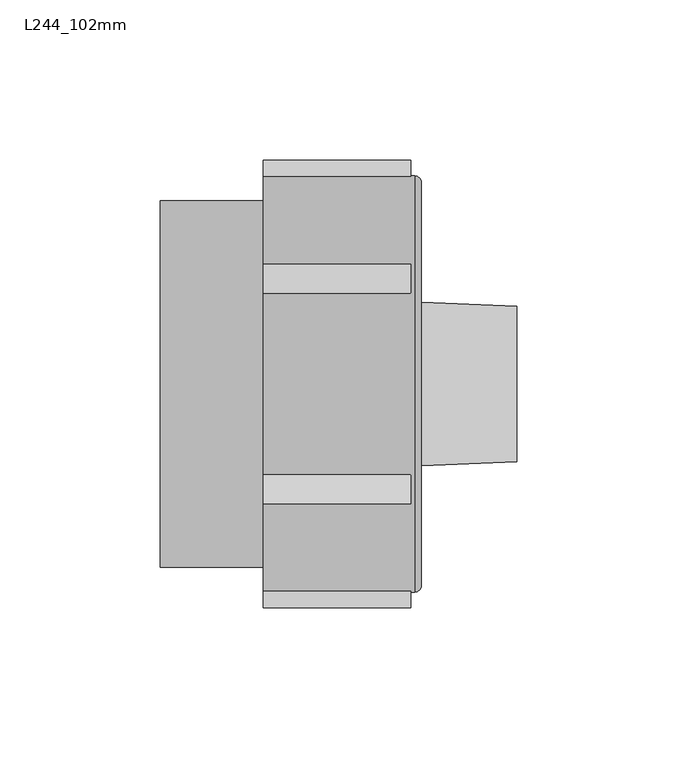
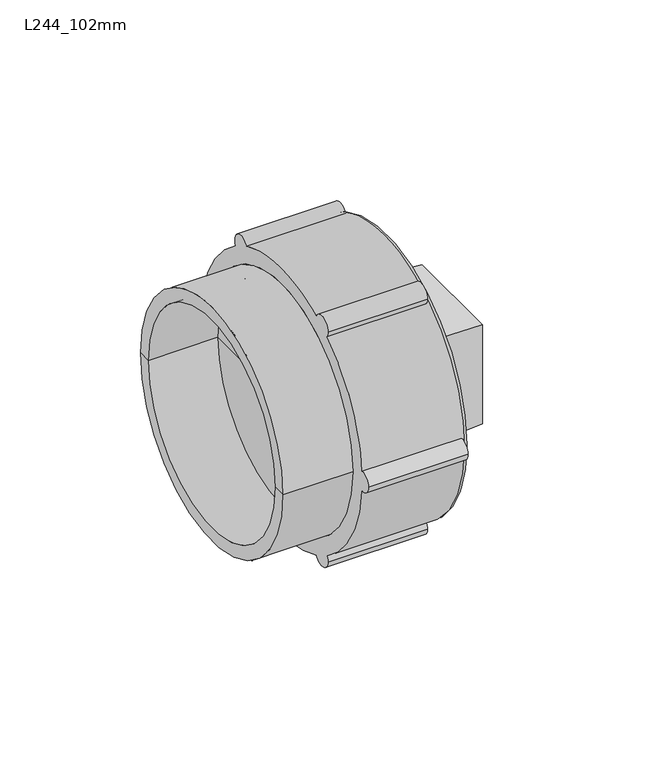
"""IFC4 building model written with IfcOpenShell, lengths in millimetres: pipe fitting geometry, Durapipe_PipeFitting_VulcatheneEnfusion_CleanoutPlug_L24 : L244_102mm."""

from ifc_helpers import new_model, si_unit, point, frame, origin, place, context, project, spatial, polyline, circle_curve, ellipse_curve, trimmed, source, transform, mapped, element, save
from ifc_brep_helpers import plane_surface, cylinder_surface, revolved_surface, advanced_brep


def l244_102mm_bb0a7bc2(model_context):
    return source(origin(), model_context, "Body", "AdvancedBrep", [
        advanced_brep(
        [(23.8, 64.9, 0.0), (23.8, -64.9, 0.0), (22.6, -64.9, 0.0), (22.6, -64.7150231, -4.8965073), (-23.4, -64.7150231, -4.8965073), (-23.4, -36.5980113, -53.5966004), (22.6, -36.5980113, -53.5966004), (22.6, -28.1170119, -58.4931077), (-23.4, -28.1170119, -58.4931077), (-23.4, 28.1170119, -58.4931077), (22.6, 28.1170119, -58.4931077), (22.6, 36.5980113, -53.5966004), (-23.4, 36.5980113, -53.5966004), (-23.4, 64.7150231, -4.8965073), (22.6, 64.7150231, -4.8965073), (22.6, 64.9, 0.0), (22.6, 64.7150231, 4.8965073), (-23.4, 64.7150231, 4.8965073), (-23.4, 36.5980113, 53.5966004), (22.6, 36.5980113, 53.5966004), (22.6, 28.1170119, 58.4931077), (-23.4, 28.1170119, 58.4931077), (-23.4, -28.1170119, 58.4931077), (22.6, -28.1170119, 58.4931077), (22.6, -36.5980113, 53.5966004), (-23.4, -36.5980113, 53.5966004), (-23.4, -64.7150231, 4.8965073), (22.6, -64.7150231, 4.8965073), (-23.4, 69.8, 0.0), (-23.4, 37.35, -56.2050487), (-23.4, -37.35, -56.2050487), (-23.4, -69.8, 0.0), (-23.4, -37.35, 56.2050487), (-23.4, 37.35, 56.2050487), (-23.4, -57.2, 0.0), (-23.4, 57.2, 0.0), (-55.6, -57.2, 0.0), (-55.6, 57.2, 0.0), (-55.6, -51.0, 0.0), (-55.6, 51.0, 0.0), (-23.4, -51.0, 0.0), (-23.4, 51.0, 0.0), (-23.4, 0.0, 0.0), (25.8, -62.9, 0.0), (25.8, 62.9, 0.0), (25.8, 25.5, 0.0), (25.8, 25.5, -25.5), (25.8, -25.5, -25.5), (25.8, -25.5, 0.0), (25.8, -25.5, 25.5), (25.8, 25.5, 25.5), (22.6, -37.35, 56.2050487), (22.6, 37.35, 56.2050487), (22.6, 69.8, 0.0), (22.6, -69.8, 0.0), (22.6, -37.35, -56.2050487), (22.6, 37.35, -56.2050487), (55.6, -24.1989039, 24.1989039), (55.6, -24.1989039, -24.1989039), (55.6, 24.1989039, -24.1989039), (55.6, 24.1989039, 24.1989039)],
        [
            (0, 1, circle_curve(frame((23.8, 0.0, 0.0), z_axis=(-1.0, 0.0, 0.0), x_axis=(0.0, 1.0, 0.0)), 64.9)),
            (1, 2),
            (2, 3, circle_curve(frame((22.6, 0.0, 0.0), z_axis=(1.0, 0.0, 0.0), x_axis=(0.0, 1.0, 0.0)), 64.9)),
            (3, 4),
            (4, 5, circle_curve(frame((-23.4, 0.0, 0.0), z_axis=(1.0, 0.0, 0.0), x_axis=(0.0, 1.0, 0.0)), 64.9)),
            (5, 6),
            (6, 7, circle_curve(frame((22.6, 0.0, 0.0), z_axis=(1.0, 0.0, 0.0), x_axis=(0.0, 1.0, 0.0)), 64.9)),
            (7, 8),
            (8, 9, circle_curve(frame((-23.4, 0.0, 0.0), z_axis=(1.0, 0.0, 0.0), x_axis=(0.0, 1.0, 0.0)), 64.9)),
            (9, 10),
            (10, 11, circle_curve(frame((22.6, 0.0, 0.0), z_axis=(1.0, 0.0, 0.0), x_axis=(0.0, 1.0, 0.0)), 64.9)),
            (11, 12),
            (12, 13, circle_curve(frame((-23.4, 0.0, 0.0), z_axis=(1.0, 0.0, 0.0), x_axis=(0.0, 1.0, 0.0)), 64.9)),
            (13, 14),
            (14, 15, circle_curve(frame((22.6, 0.0, 0.0), z_axis=(1.0, 0.0, 0.0), x_axis=(0.0, 1.0, 0.0)), 64.9)),
            (15, 0),
            (1, 0, circle_curve(frame((23.8, 0.0, 0.0), z_axis=(-1.0, 0.0, 0.0), x_axis=(0.0, 1.0, 0.0)), 64.9)),
            (15, 16, circle_curve(frame((22.6, 0.0, 0.0), z_axis=(1.0, 0.0, 0.0), x_axis=(0.0, 1.0, 0.0)), 64.9)),
            (16, 17),
            (17, 18, circle_curve(frame((-23.4, 0.0, 0.0), z_axis=(1.0, 0.0, 0.0), x_axis=(0.0, 1.0, 0.0)), 64.9)),
            (18, 19),
            (19, 20, circle_curve(frame((22.6, 0.0, 0.0), z_axis=(1.0, 0.0, 0.0), x_axis=(0.0, 1.0, 0.0)), 64.9)),
            (20, 21),
            (21, 22, circle_curve(frame((-23.4, 0.0, 0.0), z_axis=(1.0, 0.0, 0.0), x_axis=(0.0, 1.0, 0.0)), 64.9)),
            (22, 23),
            (23, 24, circle_curve(frame((22.6, 0.0, 0.0), z_axis=(1.0, 0.0, 0.0), x_axis=(0.0, 1.0, 0.0)), 64.9)),
            (24, 25),
            (25, 26, circle_curve(frame((-23.4, 0.0, 0.0), z_axis=(1.0, 0.0, 0.0), x_axis=(0.0, 1.0, 0.0)), 64.9)),
            (26, 27),
            (27, 2, circle_curve(frame((22.6, 0.0, 0.0), z_axis=(1.0, 0.0, 0.0), x_axis=(0.0, 1.0, 0.0)), 64.9)),
            (28, 13, circle_curve(frame((-23.4, 64.9, 0.0), z_axis=(-1.0, 0.0, 0.0), x_axis=(0.0, 1.0, 0.0)), 4.9)),
            (12, 29, circle_curve(frame((-23.4, 32.45, -56.2050487), z_axis=(-1.0, 0.0, 0.0), x_axis=(0.0, 1.0, 0.0)), 4.9)),
            (29, 9, circle_curve(frame((-23.4, 32.45, -56.2050487), z_axis=(-1.0, 0.0, 0.0), x_axis=(0.0, 1.0, 0.0)), 4.9)),
            (8, 30, circle_curve(frame((-23.4, -32.45, -56.2050487), z_axis=(-1.0, 0.0, 0.0), x_axis=(0.0, 1.0, 0.0)), 4.9)),
            (30, 5, circle_curve(frame((-23.4, -32.45, -56.2050487), z_axis=(-1.0, 0.0, 0.0), x_axis=(0.0, 1.0, 0.0)), 4.9)),
            (4, 31, circle_curve(frame((-23.4, -64.9, 0.0), z_axis=(-1.0, 0.0, 0.0), x_axis=(0.0, 1.0, 0.0)), 4.9)),
            (31, 26, circle_curve(frame((-23.4, -64.9, 0.0), z_axis=(-1.0, 0.0, 0.0), x_axis=(0.0, 1.0, 0.0)), 4.9)),
            (25, 32, circle_curve(frame((-23.4, -32.45, 56.2050487), z_axis=(-1.0, 0.0, 0.0), x_axis=(0.0, 1.0, 0.0)), 4.9)),
            (32, 22, circle_curve(frame((-23.4, -32.45, 56.2050487), z_axis=(-1.0, 0.0, 0.0), x_axis=(0.0, 1.0, 0.0)), 4.9)),
            (21, 33, circle_curve(frame((-23.4, 32.45, 56.2050487), z_axis=(-1.0, 0.0, 0.0), x_axis=(0.0, 1.0, 0.0)), 4.9)),
            (33, 18, circle_curve(frame((-23.4, 32.45, 56.2050487), z_axis=(-1.0, 0.0, 0.0), x_axis=(0.0, 1.0, 0.0)), 4.9)),
            (17, 28, circle_curve(frame((-23.4, 64.9, 0.0), z_axis=(-1.0, 0.0, 0.0), x_axis=(0.0, 1.0, 0.0)), 4.9)),
            (34, 35, circle_curve(frame((-23.4, 0.0, 0.0), z_axis=(1.0, 0.0, 0.0), x_axis=(0.0, 1.0, 0.0)), 57.2)),
            (35, 34, circle_curve(frame((-23.4, 0.0, 0.0), z_axis=(1.0, 0.0, 0.0), x_axis=(0.0, 1.0, 0.0)), 57.2)),
            (34, 36),
            (36, 37, circle_curve(frame((-55.6, 0.0, 0.0), z_axis=(1.0, 0.0, 0.0), x_axis=(0.0, 1.0, 0.0)), 57.2)),
            (37, 35),
            (37, 36, circle_curve(frame((-55.6, 0.0, 0.0), z_axis=(1.0, 0.0, 0.0), x_axis=(0.0, 1.0, 0.0)), 57.2)),
            (36, 38),
            (38, 39, circle_curve(frame((-55.6, 0.0, 0.0), z_axis=(1.0, 0.0, 0.0), x_axis=(0.0, 1.0, 0.0)), 51.0)),
            (39, 37),
            (39, 38, circle_curve(frame((-55.6, 0.0, 0.0), z_axis=(1.0, 0.0, 0.0), x_axis=(0.0, 1.0, 0.0)), 51.0)),
            (38, 40),
            (40, 41, circle_curve(frame((-23.4, 0.0, 0.0), z_axis=(1.0, 0.0, 0.0), x_axis=(0.0, 1.0, 0.0)), 51.0)),
            (41, 39),
            (41, 40, circle_curve(frame((-23.4, 0.0, 0.0), z_axis=(1.0, 0.0, 0.0), x_axis=(0.0, 1.0, 0.0)), 51.0)),
            (40, 42),
            (42, 41),
            (43, 44, circle_curve(frame((25.8, 0.0, 0.0), z_axis=(1.0, 0.0, 0.0), x_axis=(0.0, 1.0, 0.0)), 62.9)),
            (44, 45),
            (45, 46),
            (46, 47),
            (47, 48),
            (48, 43),
            (44, 43, circle_curve(frame((25.8, 0.0, 0.0), z_axis=(1.0, 0.0, 0.0), x_axis=(0.0, -1.0, 0.0)), 62.9)),
            (48, 49),
            (49, 50),
            (50, 45),
            (43, 1, circle_curve(frame((23.8, -62.9, 0.0), z_axis=(0.0, 0.0, -1.0), x_axis=(0.0, -1.0, 0.0)), 2.0)),
            (0, 44, circle_curve(frame((23.8, 62.9, 0.0), z_axis=(0.0, 0.0, -1.0), x_axis=(0.0, 1.0, 0.0)), 2.0)),
            (51, 24, circle_curve(frame((22.6, -32.45, 56.2050487), z_axis=(1.0, 0.0, 0.0), x_axis=(0.0, 1.0, 0.0)), 4.9)),
            (23, 51, circle_curve(frame((22.6, -32.45, 56.2050487), z_axis=(1.0, 0.0, 0.0), x_axis=(0.0, 1.0, 0.0)), 4.9)),
            (19, 52, circle_curve(frame((22.6, 32.45, 56.2050487), z_axis=(1.0, 0.0, 0.0), x_axis=(0.0, 1.0, 0.0)), 4.9)),
            (52, 20, circle_curve(frame((22.6, 32.45, 56.2050487), z_axis=(1.0, 0.0, 0.0), x_axis=(0.0, 1.0, 0.0)), 4.9)),
            (14, 53, circle_curve(frame((22.6, 64.9, 0.0), z_axis=(1.0, 0.0, 0.0), x_axis=(0.0, 1.0, 0.0)), 4.9)),
            (53, 16, circle_curve(frame((22.6, 64.9, 0.0), z_axis=(1.0, 0.0, 0.0), x_axis=(0.0, 1.0, 0.0)), 4.9)),
            (54, 3, circle_curve(frame((22.6, -64.9, 0.0), z_axis=(1.0, 0.0, 0.0), x_axis=(0.0, 1.0, 0.0)), 4.9)),
            (27, 54, circle_curve(frame((22.6, -64.9, 0.0), z_axis=(1.0, 0.0, 0.0), x_axis=(0.0, 1.0, 0.0)), 4.9)),
            (55, 7, circle_curve(frame((22.6, -32.45, -56.2050487), z_axis=(1.0, 0.0, 0.0), x_axis=(0.0, 1.0, 0.0)), 4.9)),
            (6, 55, circle_curve(frame((22.6, -32.45, -56.2050487), z_axis=(1.0, 0.0, 0.0), x_axis=(0.0, 1.0, 0.0)), 4.9)),
            (10, 56, circle_curve(frame((22.6, 32.45, -56.2050487), z_axis=(1.0, 0.0, 0.0), x_axis=(0.0, 1.0, 0.0)), 4.9)),
            (56, 11, circle_curve(frame((22.6, 32.45, -56.2050487), z_axis=(1.0, 0.0, 0.0), x_axis=(0.0, 1.0, 0.0)), 4.9)),
            (51, 32),
            (33, 52),
            (28, 53),
            (54, 31),
            (55, 30),
            (29, 56),
            (57, 58),
            (58, 59),
            (59, 60),
            (60, 57),
            (47, 58),
            (57, 49),
            (46, 59),
            (50, 60),
        ],
        [
            cylinder_surface(frame((1580.9518184, 0.0, 0.0), z_axis=(-1.0, 0.0, 0.0), x_axis=(0.0, 1.0, 0.0)), 64.9),
            plane_surface(frame((-23.4, 0.0, 0.0), z_axis=(-1.0, 0.0, 0.0), x_axis=(0.0, 1.0, 0.0))),
            cylinder_surface(frame((1580.9518184, 0.0, 0.0), z_axis=(-1.0, 0.0, 0.0), x_axis=(0.0, 1.0, 0.0)), 57.2),
            plane_surface(frame((-55.6, 0.0, 0.0), z_axis=(-1.0, 0.0, 0.0), x_axis=(0.0, 1.0, 0.0))),
            revolved_surface(polyline([(-55.59999999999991, 51.0, 0.0), (-23.40000000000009, 51.0, 0.0)]), (1580.9518184, 0.0, 0.0), (-1.0, 0.0, 0.0)),
            plane_surface(frame((25.8, 0.0, 0.0), z_axis=(1.0, 0.0, 0.0), x_axis=(0.0, 1.0, 0.0))),
            revolved_surface(trimmed(ellipse_curve(frame((23.8, 62.9, 0.0), z_axis=(0.0, 0.0, 1.0), x_axis=(0.0, 1.0, 0.0)), 2.0, 2.0), [point((25.8, 62.9, 0.0))], [point((23.8, 64.9, 0.0))], True, "CARTESIAN"), (25.8, 0.0, 0.0), (-1.0, 0.0, 0.0)),
            revolved_surface(trimmed(ellipse_curve(frame((23.8, -62.9, 0.0), z_axis=(0.0, 0.0, -1.0), x_axis=(0.0, -1.0, 0.0)), 2.0, 2.0), [point((25.8, -62.9, 0.0))], [point((23.8, -64.9, 0.0))], True, "CARTESIAN"), (25.8, 0.0, 0.0), (-1.0, 0.0, 0.0)),
            plane_surface(frame((22.6, -27.55, 56.2050487), z_axis=(1.0, 0.0, 0.0), x_axis=(0.0, 0.0, 1.0))),
            cylinder_surface(frame((-23.4, -32.45, 56.2050487), z_axis=(1.0, 0.0, 0.0), x_axis=(0.0, 1.0, 0.0)), 4.9),
            cylinder_surface(frame((0.0, 32.45, 56.2050487), z_axis=(1.0, 0.0, 0.0), x_axis=(0.0, 1.0, 0.0)), 4.9),
            cylinder_surface(frame((0.0, 64.9, 0.0), z_axis=(1.0, 0.0, 0.0), x_axis=(0.0, 1.0, 0.0)), 4.9),
            cylinder_surface(frame((0.0, -64.9, 0.0), z_axis=(1.0, 0.0, 0.0), x_axis=(0.0, 1.0, 0.0)), 4.9),
            cylinder_surface(frame((0.0, -32.45, -56.2050487), z_axis=(1.0, 0.0, 0.0), x_axis=(0.0, 1.0, 0.0)), 4.9),
            cylinder_surface(frame((0.0, 32.45, -56.2050487), z_axis=(1.0, 0.0, 0.0), x_axis=(0.0, 1.0, 0.0)), 4.9),
            plane_surface(frame((55.6, -25.5, 25.5), z_axis=(1.0, 0.0, 0.0), x_axis=(0.0, -1.0, 0.0))),
            plane_surface(frame((55.6, -24.1989039, 24.1989039), z_axis=(0.04361938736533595, -0.9990482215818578, 0.0), x_axis=(0.0, 0.0, -1.0))),
            plane_surface(frame((55.6, -24.1989039, -24.1989039), z_axis=(0.04361938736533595, 0.0, -0.9990482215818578), x_axis=(0.0, 1.0, 0.0))),
            plane_surface(frame((55.6, 24.1989039, -24.1989039), z_axis=(0.04361938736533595, 0.9990482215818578, 0.0), x_axis=(0.0, 0.0, 1.0))),
            plane_surface(frame((55.6, 24.1989039, 24.1989039), z_axis=(0.04361938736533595, 0.0, 0.9990482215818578), x_axis=(0.0, -1.0, 0.0))),
        ],
        [
            (0, [[1, 2, 3, 4, 5, 6, 7, 8, 9, 10, 11, 12, 13, 14, 15, 16]]),
            (0, [[17, -16, 18, 19, 20, 21, 22, 23, 24, 25, 26, 27, 28, 29, 30, -2]]),
            (1, [[31, -13, 32, 33, -9, 34, 35, -5, 36, 37, -28, 38, 39, -24, 40, 41, -20, 42], [43, 44]]),
            (2, [[-43, 45, 46, 47]]),
            (2, [[-44, -47, 48, -45]]),
            (3, [[-46, 49, 50, 51]]),
            (3, [[-48, -51, 52, -49]]),
            (4, [[-50, 53, 54, 55]]),
            (4, [[-52, -55, 56, -53]]),
            (1, [[-54, 57, 58]]),
            (1, [[-56, -58, -57]]),
            (5, [[59, 60, 61, 62, 63, 64]]),
            (5, [[65, -64, 66, 67, 68, -60]]),
            (6, [[69, -1, 70, -59]]),
            (7, [[-69, -65, -70, -17]]),
            (8, [[71, -26, 72]]),
            (8, [[73, 74, -22]]),
            (8, [[75, 76, -18, -15]]),
            (8, [[77, -3, -30, 78]]),
            (8, [[79, -7, 80]]),
            (8, [[81, 82, -11]]),
            (9, [[83, -38, -27, -71]]),
            (9, [[-83, -72, -25, -39]]),
            (10, [[84, -73, -21, -41]]),
            (10, [[-84, -40, -23, -74]]),
            (11, [[85, -75, -14, -31]]),
            (11, [[-85, -42, -19, -76]]),
            (12, [[86, -36, -4, -77]]),
            (12, [[-86, -78, -29, -37]]),
            (13, [[87, -34, -8, -79]]),
            (13, [[-87, -80, -6, -35]]),
            (14, [[88, -81, -10, -33]]),
            (14, [[-88, -32, -12, -82]]),
            (15, [[89, 90, 91, 92]]),
            (16, [[93, -89, 94, -66, -63]]),
            (17, [[-93, -62, 95, -90]]),
            (18, [[-95, -61, -68, 96, -91]]),
            (19, [[-94, -92, -96, -67]]),
        ],
    ),
    ])


if __name__ == "__main__":
    model = new_model("IFC4")
    model_context = context("Model", 3, world=origin())
    ifc_project = project(units=[si_unit("LENGTHUNIT", "METRE", prefix="MILLI")], contexts=[model_context])
    site = spatial("IfcSite", under=ifc_project)
    building = spatial("IfcBuilding", under=site)
    placement = place(None, origin())
    l244_102mm_shape = l244_102mm_bb0a7bc2(model_context)
    element("IfcPipeFitting", 1, ObjectType="Durapipe_PipeFitting_VulcatheneEnfusion_CleanoutPlug_L24 : L244_102mm", at=placement, inside=building, context=model_context, shape_type="MappedRepresentation", body=[
        mapped(l244_102mm_shape, transform((0.0, 0.0, 0.0), x_axis=(1.0, 0.0, 0.0), y_axis=(0.0, 1.0, 0.0), z_axis=(0.0, 0.0, 1.0))),
    ])
    save(model, "model.ifc")
